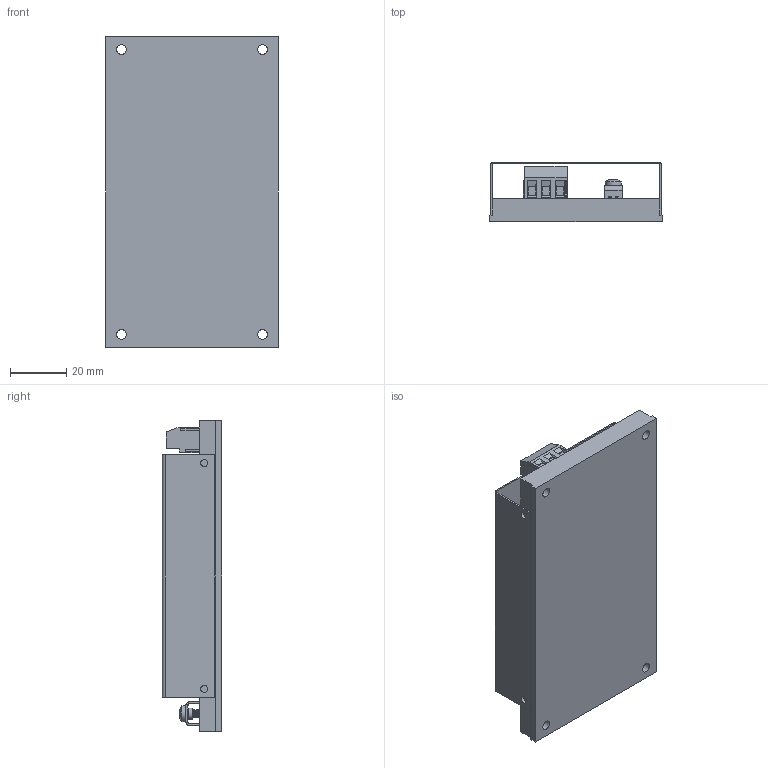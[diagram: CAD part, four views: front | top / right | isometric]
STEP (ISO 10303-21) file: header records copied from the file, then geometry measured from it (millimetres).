
FILE_DESCRIPTION(/* description */ (''),/* implementation_level */ '2;1');
FILE_NAME(/* name */ '',/* time_stamp */ '',/* author */ (''),/* organization */ (''),/* preprocessor_version */ '',/* originating_system */ '',/* authorisation */ '');
FILE_SCHEMA (('AUTOMOTIVE_DESIGN { 1 0 10303 214 3 1 1 }'));
Length unit declared in the file: inch
Products named in the file (1): JETA150-LP_full
Bounding box: 61 x 21 x 110 mm (x, y, z)
Volume: 55258.1 mm3; surface area: 32711.9 mm2
Topology: 1 solids, 3 shells, 472 faces, 1189 edges, 729 vertices
Faces by surface type: plane 254, cylinder 148, cone 44, torus 22, sphere 4
Full cylindrical faces by diameter (mm): 0.457 x1, 2.5 x6, 3 x12, 3.4 x4, 3.8 x3, 4 x5, 5.6 x2
Entity records: 14007 total; most frequent: CARTESIAN_POINT 2445, DIRECTION 2396, ORIENTED_EDGE 2166, EDGE_CURVE 1083, AXIS2_PLACEMENT_3D 858, VERTEX_POINT 691, LINE 680, VECTOR 680
